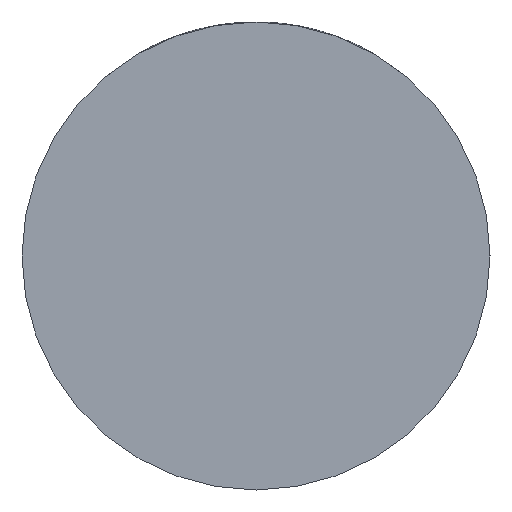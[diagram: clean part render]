
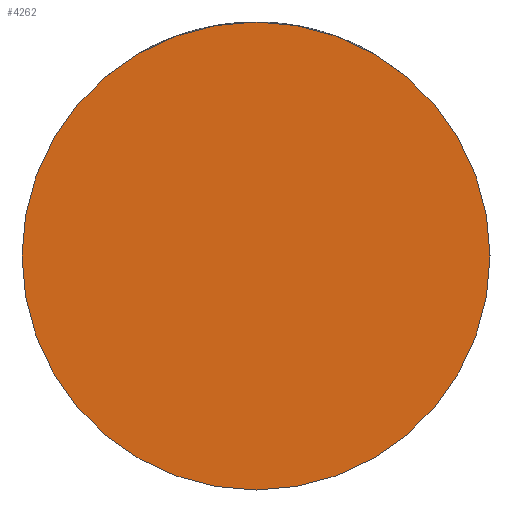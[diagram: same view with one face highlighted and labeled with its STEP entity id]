
A CAD part, front view. The second image highlights one B-rep face of the part: STEP entity #4262.
In plain terms, the highlighted planar face has unit normal (0, -1, 0).
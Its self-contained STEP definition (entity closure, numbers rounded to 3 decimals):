
#103 = CIRCLE ( 'NONE', #3064, 20. ) ;
#187 = AXIS2_PLACEMENT_3D ( 'NONE', #4142, #3827, #5035 ) ;
#536 = VERTEX_POINT ( 'NONE', #4395 ) ;
#577 = DIRECTION ( 'NONE',  ( 0., 1., 0. ) ) ;
#666 = CARTESIAN_POINT ( 'NONE',  ( 0., -13., 0. ) ) ;
#1177 = ORIENTED_EDGE ( 'NONE', *, *, #2703, .F. ) ;
#1777 = DIRECTION ( 'NONE',  ( -1., 0., 0. ) ) ;
#2365 = ORIENTED_EDGE ( 'NONE', *, *, #5189, .F. ) ;
#2521 = FACE_OUTER_BOUND ( 'NONE', #3785, .T. ) ;
#2619 = PLANE ( 'NONE',  #187 ) ;
#2703 = EDGE_CURVE ( 'NONE', #536, #4449, #3047, .T. ) ;
#2996 = CARTESIAN_POINT ( 'NONE',  ( 0., -13., 0. ) ) ;
#3047 = CIRCLE ( 'NONE', #4585, 20. ) ;
#3064 = AXIS2_PLACEMENT_3D ( 'NONE', #2996, #577, #1777 ) ;
#3785 = EDGE_LOOP ( 'NONE', ( #1177, #2365 ) ) ;
#3827 = DIRECTION ( 'NONE',  ( 0., -1., 0. ) ) ;
#3920 = DIRECTION ( 'NONE',  ( -1., 0., 0. ) ) ;
#4142 = CARTESIAN_POINT ( 'NONE',  ( 0., -13., 0. ) ) ;
#4262 = ADVANCED_FACE ( 'NONE', ( #2521 ), #2619, .T. ) ;
#4395 = CARTESIAN_POINT ( 'NONE',  ( -20., -13., 0. ) ) ;
#4449 = VERTEX_POINT ( 'NONE', #4488 ) ;
#4488 = CARTESIAN_POINT ( 'NONE',  ( 20., -13., 0. ) ) ;
#4585 = AXIS2_PLACEMENT_3D ( 'NONE', #666, #5150, #3920 ) ;
#5035 = DIRECTION ( 'NONE',  ( 1., 0., 0. ) ) ;
#5150 = DIRECTION ( 'NONE',  ( 0., 1., 0. ) ) ;
#5189 = EDGE_CURVE ( 'NONE', #4449, #536, #103, .T. ) ;
